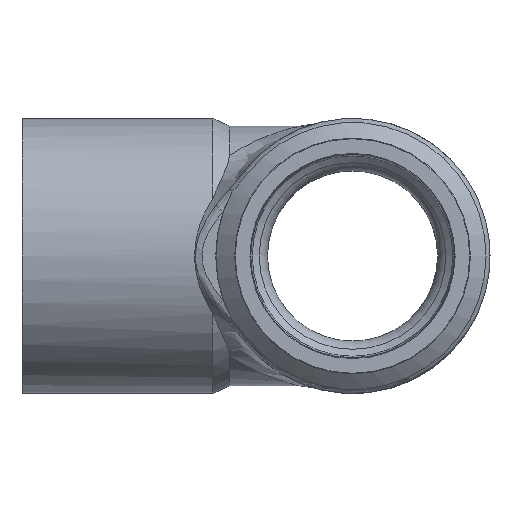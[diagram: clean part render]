
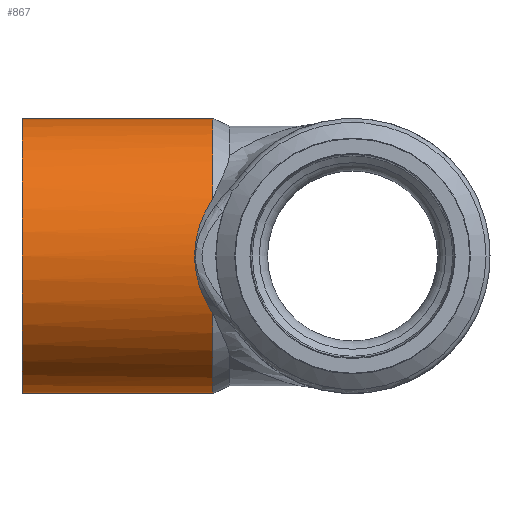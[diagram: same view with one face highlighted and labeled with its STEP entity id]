
A CAD part, left-side view. The second image highlights one B-rep face of the part: STEP entity #867.
In plain terms, the highlighted cylindrical face has radius 12.075 mm (diameter 24.15 mm), a full revolution.
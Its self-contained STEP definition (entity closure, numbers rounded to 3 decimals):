
#57=B_SPLINE_CURVE_WITH_KNOTS('',3,(#1758,#1759,#1760,#1761,#1762,#1763,
#1764,#1765,#1766,#1767,#1768,#1769),.UNSPECIFIED.,.F.,.F.,(4,2,2,2,2,4),
(-1.109,-0.821,-0.635,-0.473,
-0.286,0.),.UNSPECIFIED.);
#61=B_SPLINE_CURVE_WITH_KNOTS('',3,(#1811,#1812,#1813,#1814,#1815,#1816,
#1817,#1818),.UNSPECIFIED.,.F.,.F.,(4,2,2,4),(-1.109,-0.827,
-0.638,-0.554),.UNSPECIFIED.);
#62=B_SPLINE_CURVE_WITH_KNOTS('',3,(#1820,#1821,#1822,#1823,#1824,#1825,
#1826,#1827),.UNSPECIFIED.,.F.,.F.,(4,2,2,4),(-0.554,-0.475,
-0.288,0.),.UNSPECIFIED.);
#103=LINE('',#2306,#114);
#114=VECTOR('',#1264,12.075);
#124=CYLINDRICAL_SURFACE('',#1010,12.075);
#175=FACE_OUTER_BOUND('',#230,.T.);
#230=EDGE_LOOP('',(#786,#787,#788,#789,#790,#791,#792,#793));
#309=CIRCLE('',#1009,12.075);
#310=CIRCLE('',#1011,12.075);
#311=CIRCLE('',#1012,12.075);
#349=VERTEX_POINT('',#1750);
#350=VERTEX_POINT('',#1757);
#353=VERTEX_POINT('',#1803);
#354=VERTEX_POINT('',#1810);
#355=VERTEX_POINT('',#1819);
#396=VERTEX_POINT('',#2304);
#450=EDGE_CURVE('',#349,#350,#57,.T.);
#454=EDGE_CURVE('',#353,#354,#61,.T.);
#455=EDGE_CURVE('',#354,#355,#62,.T.);
#528=EDGE_CURVE('',#353,#350,#309,.T.);
#529=EDGE_CURVE('',#396,#396,#310,.T.);
#530=EDGE_CURVE('',#396,#354,#103,.T.);
#531=EDGE_CURVE('',#349,#355,#311,.T.);
#786=ORIENTED_EDGE('',*,*,#529,.F.);
#787=ORIENTED_EDGE('',*,*,#530,.T.);
#788=ORIENTED_EDGE('',*,*,#454,.F.);
#789=ORIENTED_EDGE('',*,*,#528,.T.);
#790=ORIENTED_EDGE('',*,*,#450,.F.);
#791=ORIENTED_EDGE('',*,*,#531,.T.);
#792=ORIENTED_EDGE('',*,*,#455,.F.);
#793=ORIENTED_EDGE('',*,*,#530,.F.);
#867=ADVANCED_FACE('',(#175),#124,.T.);
#1009=AXIS2_PLACEMENT_3D('',#2302,#1258,#1259);
#1010=AXIS2_PLACEMENT_3D('',#2303,#1260,#1261);
#1011=AXIS2_PLACEMENT_3D('',#2305,#1262,#1263);
#1012=AXIS2_PLACEMENT_3D('',#2307,#1265,#1266);
#1258=DIRECTION('center_axis',(0.,1.,0.));
#1259=DIRECTION('ref_axis',(-1.,0.,0.));
#1260=DIRECTION('center_axis',(0.,1.,0.));
#1261=DIRECTION('ref_axis',(-1.,0.,0.));
#1262=DIRECTION('center_axis',(0.,1.,0.));
#1263=DIRECTION('ref_axis',(-1.,0.,0.));
#1264=DIRECTION('',(0.,-1.,0.));
#1265=DIRECTION('center_axis',(0.,1.,0.));
#1266=DIRECTION('ref_axis',(-1.,0.,0.));
#1750=CARTESIAN_POINT('',(-10.963,12.252,5.062));
#1757=CARTESIAN_POINT('',(-10.963,12.252,-5.062));
#1758=CARTESIAN_POINT('Ctrl Pts',(-10.963,12.252,5.062));
#1759=CARTESIAN_POINT('Ctrl Pts',(-11.31,12.737,4.31));
#1760=CARTESIAN_POINT('Ctrl Pts',(-11.598,13.152,3.483));
#1761=CARTESIAN_POINT('Ctrl Pts',(-11.921,13.623,2.012));
#1762=CARTESIAN_POINT('Ctrl Pts',(-12.008,13.752,1.413));
#1763=CARTESIAN_POINT('Ctrl Pts',(-12.084,13.865,0.262));
#1764=CARTESIAN_POINT('Ctrl Pts',(-12.084,13.864,-0.274));
#1765=CARTESIAN_POINT('Ctrl Pts',(-12.006,13.75,-1.427));
#1766=CARTESIAN_POINT('Ctrl Pts',(-11.918,13.619,-2.028));
#1767=CARTESIAN_POINT('Ctrl Pts',(-11.594,13.147,-3.494));
#1768=CARTESIAN_POINT('Ctrl Pts',(-11.307,12.734,-4.315));
#1769=CARTESIAN_POINT('Ctrl Pts',(-10.963,12.252,-5.062));
#1803=CARTESIAN_POINT('',(10.963,12.252,-5.062));
#1810=CARTESIAN_POINT('',(12.075,13.851,0.));
#1811=CARTESIAN_POINT('Ctrl Pts',(10.963,12.252,-5.062));
#1812=CARTESIAN_POINT('Ctrl Pts',(11.302,12.727,-4.326));
#1813=CARTESIAN_POINT('Ctrl Pts',(11.586,13.135,-3.518));
#1814=CARTESIAN_POINT('Ctrl Pts',(11.913,13.611,-2.062));
#1815=CARTESIAN_POINT('Ctrl Pts',(12.003,13.745,-1.457));
#1816=CARTESIAN_POINT('Ctrl Pts',(12.065,13.837,-0.556));
#1817=CARTESIAN_POINT('Ctrl Pts',(12.075,13.851,-0.278));
#1818=CARTESIAN_POINT('Ctrl Pts',(12.075,13.851,0.));
#1819=CARTESIAN_POINT('',(10.963,12.252,5.062));
#1820=CARTESIAN_POINT('Ctrl Pts',(12.075,13.851,0.));
#1821=CARTESIAN_POINT('Ctrl Pts',(12.075,13.851,0.261));
#1822=CARTESIAN_POINT('Ctrl Pts',(12.067,13.839,0.522));
#1823=CARTESIAN_POINT('Ctrl Pts',(12.009,13.754,1.403));
#1824=CARTESIAN_POINT('Ctrl Pts',(11.922,13.625,2.004));
#1825=CARTESIAN_POINT('Ctrl Pts',(11.599,13.153,3.48));
#1826=CARTESIAN_POINT('Ctrl Pts',(11.31,12.738,4.309));
#1827=CARTESIAN_POINT('Ctrl Pts',(10.963,12.252,5.062));
#2302=CARTESIAN_POINT('Origin',(0.,12.252,0.));
#2303=CARTESIAN_POINT('Origin',(0.,20.626,
0.));
#2304=CARTESIAN_POINT('',(12.075,29.,0.));
#2305=CARTESIAN_POINT('Origin',(0.,29.,0.));
#2306=CARTESIAN_POINT('',(12.075,20.626,0.));
#2307=CARTESIAN_POINT('Origin',(0.,12.252,0.));
